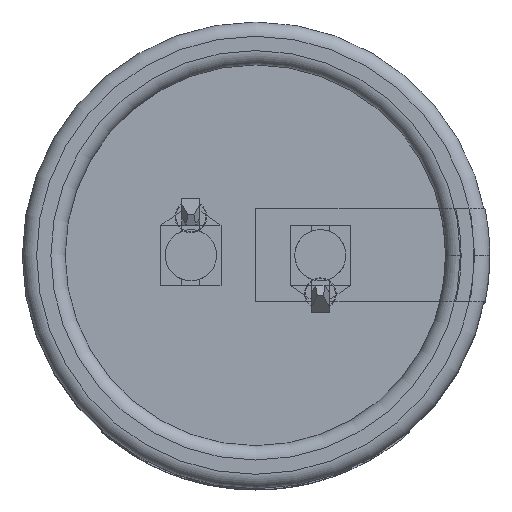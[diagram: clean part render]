
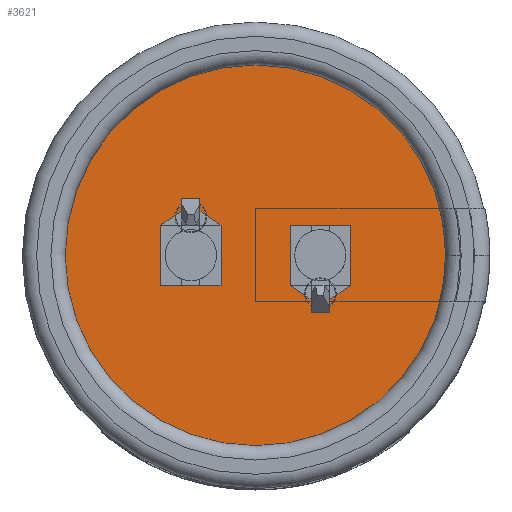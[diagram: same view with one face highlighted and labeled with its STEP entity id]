
A CAD part, top view. The second image highlights one B-rep face of the part: STEP entity #3621.
In plain terms, the highlighted planar face has unit normal (0, 0, 1).
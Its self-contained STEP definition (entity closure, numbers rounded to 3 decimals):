
#3528 = VERTEX_POINT('',#3529);
#3529 = CARTESIAN_POINT('',(12.65,0.,0.01));
#3536 = CYLINDRICAL_SURFACE('',#3537,12.65);
#3537 = AXIS2_PLACEMENT_3D('',#3538,#3539,#3540);
#3538 = CARTESIAN_POINT('',(0.,0.,0.));
#3539 = DIRECTION('',(0.,0.,-1.));
#3540 = DIRECTION('',(1.,0.,0.));
#3555 = EDGE_CURVE('',#3528,#3528,#3556,.T.);
#3556 = SURFACE_CURVE('',#3557,(#3562,#3569),.PCURVE_S1.);
#3557 = CIRCLE('',#3558,12.65);
#3558 = AXIS2_PLACEMENT_3D('',#3559,#3560,#3561);
#3559 = CARTESIAN_POINT('',(0.,0.,0.01));
#3560 = DIRECTION('',(0.,0.,1.));
#3561 = DIRECTION('',(1.,0.,0.));
#3562 = PCURVE('',#3536,#3563);
#3563 = DEFINITIONAL_REPRESENTATION('',(#3564),#3568);
#3564 = LINE('',#3565,#3566);
#3565 = CARTESIAN_POINT('',(0.,-0.01));
#3566 = VECTOR('',#3567,1.);
#3567 = DIRECTION('',(-1.,0.));
#3568 = ( GEOMETRIC_REPRESENTATION_CONTEXT(2) 
PARAMETRIC_REPRESENTATION_CONTEXT() REPRESENTATION_CONTEXT('2D SPACE',''
  ) );
#3569 = PCURVE('',#3570,#3575);
#3570 = PLANE('',#3571);
#3571 = AXIS2_PLACEMENT_3D('',#3572,#3573,#3574);
#3572 = CARTESIAN_POINT('',(12.65,0.,0.01));
#3573 = DIRECTION('',(0.,0.,-1.));
#3574 = DIRECTION('',(-1.,0.,0.));
#3575 = DEFINITIONAL_REPRESENTATION('',(#3576),#3584);
#3576 = ( BOUNDED_CURVE() B_SPLINE_CURVE(2,(#3577,#3578,#3579,#3580,
#3581,#3582,#3583),.UNSPECIFIED.,.F.,.F.) B_SPLINE_CURVE_WITH_KNOTS((1,2
    ,2,2,2,1),(-2.094,0.,2.094,4.189,
6.283,8.378),.UNSPECIFIED.) CURVE() 
GEOMETRIC_REPRESENTATION_ITEM() RATIONAL_B_SPLINE_CURVE((1.,0.5,1.,0.5,
1.,0.5,1.)) REPRESENTATION_ITEM('') );
#3577 = CARTESIAN_POINT('',(0.,0.));
#3578 = CARTESIAN_POINT('',(0.,21.91));
#3579 = CARTESIAN_POINT('',(18.975,10.955));
#3580 = CARTESIAN_POINT('',(37.95,0.));
#3581 = CARTESIAN_POINT('',(18.975,-10.955));
#3582 = CARTESIAN_POINT('',(0.,-21.91));
#3583 = CARTESIAN_POINT('',(0.,0.));
#3584 = ( GEOMETRIC_REPRESENTATION_CONTEXT(2) 
PARAMETRIC_REPRESENTATION_CONTEXT() REPRESENTATION_CONTEXT('2D SPACE',''
  ) );
#3621 = ADVANCED_FACE('',(#3622),#3570,.F.);
#3622 = FACE_BOUND('',#3623,.T.);
#3623 = EDGE_LOOP('',(#3624));
#3624 = ORIENTED_EDGE('',*,*,#3555,.T.);
